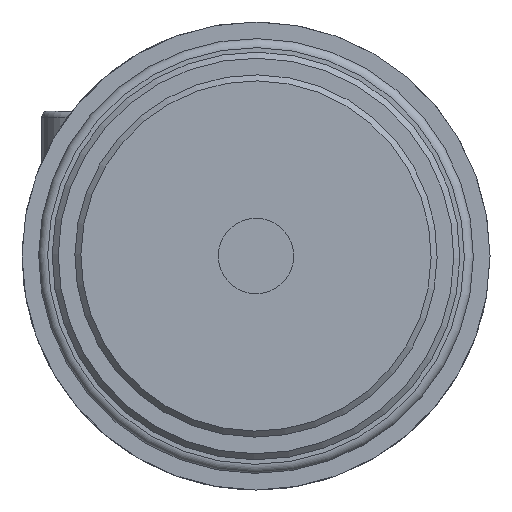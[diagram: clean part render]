
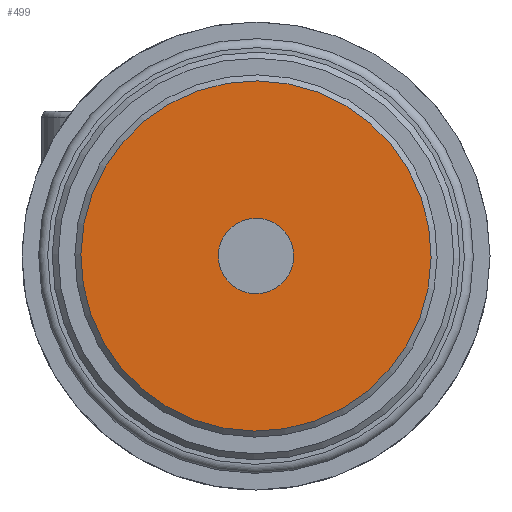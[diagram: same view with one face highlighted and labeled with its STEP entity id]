
A CAD part, left-side view. The second image highlights one B-rep face of the part: STEP entity #499.
In plain terms, the highlighted planar face has unit normal (-1, 0, 0) as drawn and (1, 0, 0) by its records, which use the part's own axes.
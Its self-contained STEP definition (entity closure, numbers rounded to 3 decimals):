
#499 = ADVANCED_FACE( '', ( #1068, #1069 ), #1070, .T. );
#1068 = FACE_OUTER_BOUND( '', #1772, .T. );
#1069 = FACE_BOUND( '', #1773, .T. );
#1070 = PLANE( '', #1774 );
#1772 = EDGE_LOOP( '', ( #2823 ) );
#1773 = EDGE_LOOP( '', ( #2824 ) );
#1774 = AXIS2_PLACEMENT_3D( '', #2825, #2826, #2827 );
#2823 = ORIENTED_EDGE( '', *, *, #3577, .T. );
#2824 = ORIENTED_EDGE( '', *, *, #3914, .T. );
#2825 = CARTESIAN_POINT( '', ( 13., 0., 6. ) );
#2826 = DIRECTION( '', ( 1., 0., 0. ) );
#2827 = DIRECTION( '', ( 0., 0., -1. ) );
#3577 = EDGE_CURVE( '', #4102, #4102, #4103, .T. );
#3914 = EDGE_CURVE( '', #4640, #4640, #4641, .T. );
#4102 = VERTEX_POINT( '', #4858 );
#4103 = CIRCLE( '', #4859, 5.8 );
#4640 = VERTEX_POINT( '', #5559 );
#4641 = CIRCLE( '', #5560, 1.25 );
#4858 = CARTESIAN_POINT( '', ( 13., 0., -5.8 ) );
#4859 = AXIS2_PLACEMENT_3D( '', #5870, #5871, #5872 );
#5559 = CARTESIAN_POINT( '', ( 13., 0., 1.25 ) );
#5560 = AXIS2_PLACEMENT_3D( '', #6446, #6447, #6448 );
#5870 = CARTESIAN_POINT( '', ( 13., 0., 0. ) );
#5871 = DIRECTION( '', ( 1., 0., 0. ) );
#5872 = DIRECTION( '', ( 0., 0., -1. ) );
#6446 = CARTESIAN_POINT( '', ( 13., 0., 0. ) );
#6447 = DIRECTION( '', ( -1., 0., 0. ) );
#6448 = DIRECTION( '', ( 0., 0., 1. ) );
